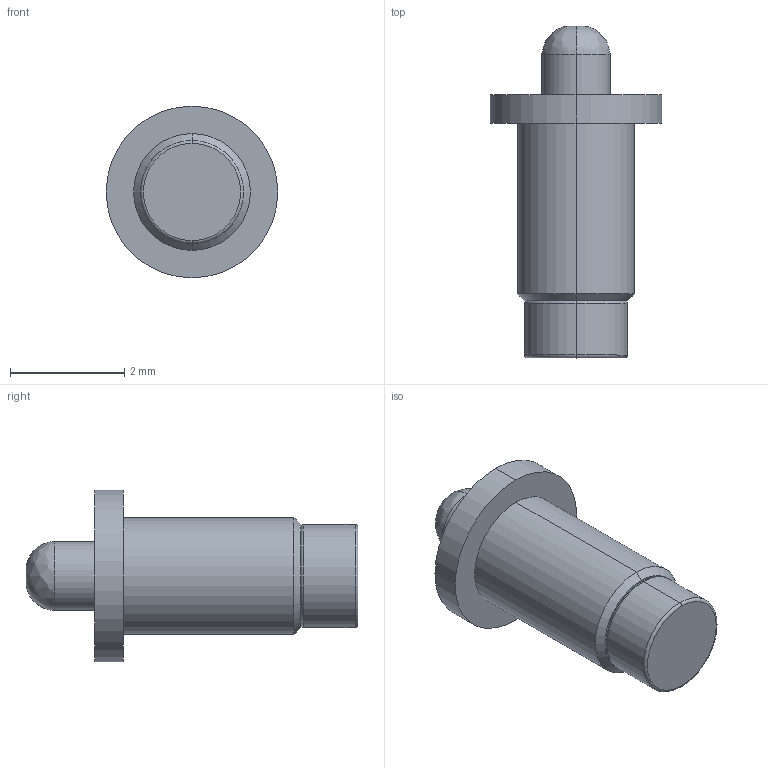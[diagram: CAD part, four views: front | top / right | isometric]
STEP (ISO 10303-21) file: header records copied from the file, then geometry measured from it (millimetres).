
FILE_DESCRIPTION((''),'2;1');
FILE_NAME('PRT0002','2023-05-26T15:04:22',('USER'),(''),'CREO PARAMETRIC BY PTC INC, 2020154','CREO PARAMETRIC BY PTC INC, 2020154','');
FILE_SCHEMA(('CONFIG_CONTROL_DESIGN'));
Length unit declared in the file: millimetre
Products named in the file (1): PRT0002
Bounding box: 3 x 5.8 x 3 mm (x, y, z)
Volume: 17.4 mm3; surface area: 47.8 mm2
Topology: 1 solids, 1 shells, 21 faces, 40 edges, 24 vertices
Faces by surface type: cylinder 8, plane 5, torus 4, cone 2, bspline 2
Entity records: 624 total; most frequent: CARTESIAN_POINT 139, DIRECTION 108, ORIENTED_EDGE 80, AXIS2_PLACEMENT_3D 49, EDGE_CURVE 40, CIRCLE 30, VERTEX_POINT 24, EDGE_LOOP 24
